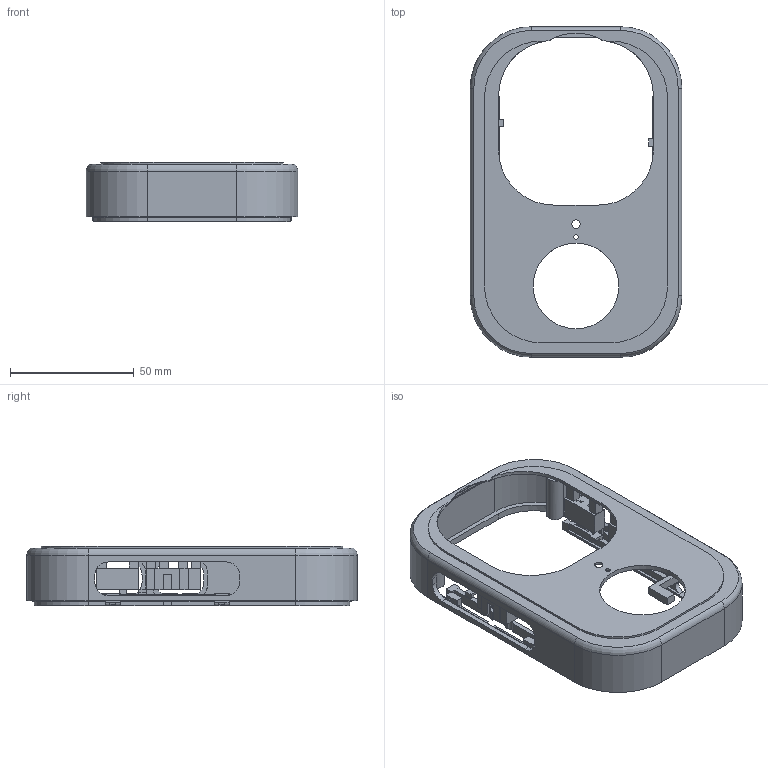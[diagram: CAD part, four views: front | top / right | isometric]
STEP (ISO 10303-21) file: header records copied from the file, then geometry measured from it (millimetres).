
FILE_DESCRIPTION(('Open CASCADE Model'),'2;1');
FILE_NAME('Open CASCADE Shape Model','2026-09-09T11:50:12',('Author'),( 'Open CASCADE'),'Open CASCADE STEP processor 7.7','Open CASCADE 7.7' ,'Unknown');
FILE_SCHEMA(('AUTOMOTIVE_DESIGN { 1 0 10303 214 1 1 1 1 }'));
Length unit declared in the file: millimetre
Products named in the file (1): Open CASCADE STEP translator 7.7 1
Bounding box: 85.6 x 133.6 x 24.2 mm (x, y, z)
Volume: 34650.9 mm3; surface area: 38335.4 mm2
Topology: 1 solids, 3 shells, 675 faces, 2020 edges, 1338 vertices
Faces by surface type: plane 504, cylinder 155, torus 16
Full cylindrical faces by diameter (mm): 1.7 x8, 1.8 x1, 3.4 x1, 5.2 x2, 34.6 x1
Entity records: 49429 total; most frequent: CARTESIAN_POINT 9840, DIRECTION 7199, LINE 4818, VECTOR 4818, ORIENTED_EDGE 4040, PCURVE 4040, DEFINITIONAL_REPRESENTATION 4040, EDGE_CURVE 2020
